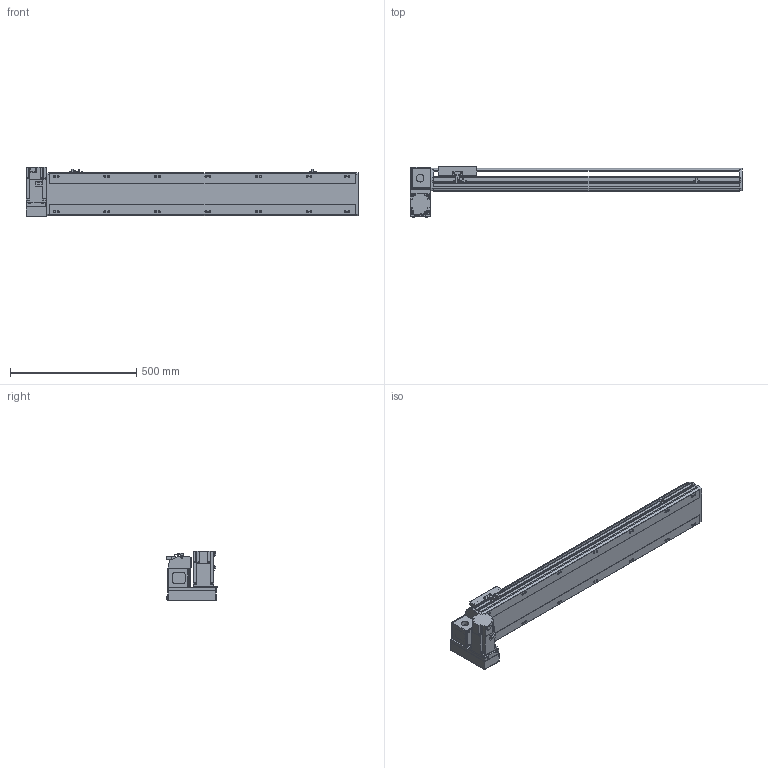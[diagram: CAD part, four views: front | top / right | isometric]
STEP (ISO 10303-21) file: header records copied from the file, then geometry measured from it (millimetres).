
FILE_DESCRIPTION( ( 'STEP AP214' ), '1' );
FILE_NAME( 'x:/temp/worker_3/temp/exporttempdir_5412_12_e1tQ9/format_0/PBS170-P40-S950-LD-T75-C1-N(0).stp', '2022-06-07T07:51:19', ( 'License CC BY-ND 4.0' ), ( 'CADENAS' ), ' ', 'PARTsolutions', ' ' );
FILE_SCHEMA( ( 'AUTOMOTIVE_DESIGN { 1 0 10303 214 1 1 1 1 }' ) );
Length unit declared in the file: millimetre
Products named in the file (7): PBS170-P40-S950-LD-T75-C1-N(0); _PBS170-S950()_body; _PBS170T-LD_motors; _T75-p1; _PBS170_sliser; _PBS170_plant; _PBS170_sensor
Assembly tree (8 placements, depth 2):
  PBS170-P40-S950-LD-T75-C1-N(0)
    _PBS170-S950()_body
    _PBS170T-LD_motors
    _T75-p1
    _PBS170_sliser
    _PBS170_plant
    _PBS170_sensor  x3
Bounding box: 1313 x 201 x 197.3 mm (x, y, z)
Volume: 10634739.7 mm3; surface area: 1396961.2 mm2
Topology: 8 solids, 8 shells, 1066 faces, 2835 edges, 1848 vertices
Faces by surface type: plane 681, cylinder 331, cone 44, sphere 8, torus 2
Full cylindrical faces by diameter (mm): 3.242 x4, 4 x2, 4.4 x4, 4.5 x6, 4.917 x4, 6 x9, 6.647 x22, 7 x2, 7.5 x4, 8 x8, 8.5 x14, 10 x4, 10.5 x14, 11 x2, 30 x2, 40 x1, 70 x1
Entity records: 39098 total; most frequent: CARTESIAN_POINT 6053, DIRECTION 5230, ORIENTED_EDGE 4968, EDGE_CURVE 2484, AXIS2_PLACEMENT_3D 1807, VERTEX_POINT 1706, LINE 1616, VECTOR 1616
